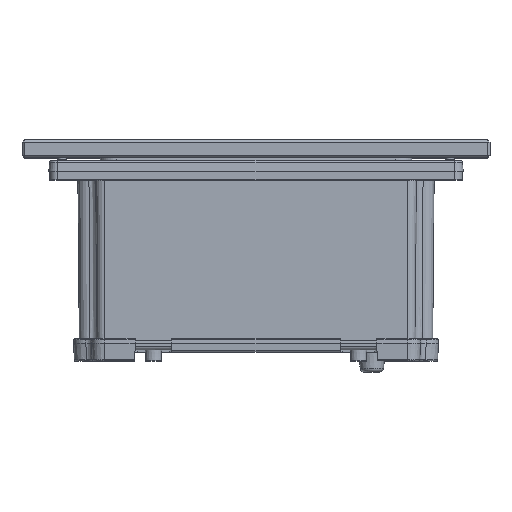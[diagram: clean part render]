
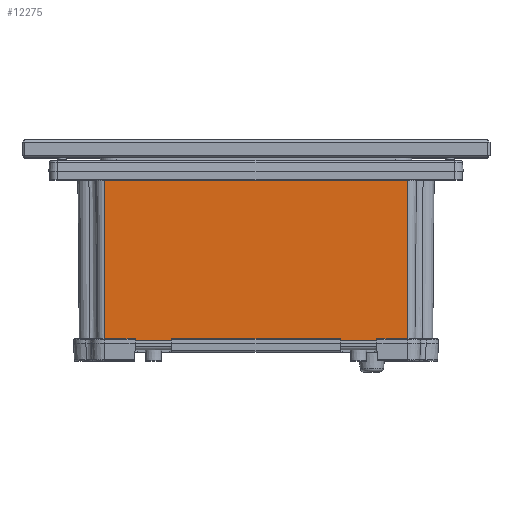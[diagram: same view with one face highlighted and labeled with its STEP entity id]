
A CAD part, top view. The second image highlights one B-rep face of the part: STEP entity #12275.
In plain terms, the highlighted planar face has unit normal (0, -0.009, 1).
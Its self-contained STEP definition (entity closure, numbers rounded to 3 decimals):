
#5525=DIRECTION('',(1.,0.,0.));
#5526=VECTOR('',#5525,68.);
#5527=CARTESIAN_POINT('',(-34.,-27.5,24.147));
#5528=LINE('',#5527,#5526);
#5868=DIRECTION('',(1.,0.,0.));
#5869=VECTOR('',#5868,68.);
#5870=CARTESIAN_POINT('',(-34.,10.203,24.476));
#5871=LINE('',#5870,#5869);
#5872=DIRECTION('',(0.,-1.,-0.009));
#5873=VECTOR('',#5872,37.704);
#5874=CARTESIAN_POINT('',(34.,10.203,24.476));
#5875=LINE('',#5874,#5873);
#5876=DIRECTION('',(0.,-1.,-0.009));
#5877=VECTOR('',#5876,37.704);
#5878=CARTESIAN_POINT('',(-34.,10.203,24.476));
#5879=LINE('',#5878,#5877);
#11062=CARTESIAN_POINT('',(-34.,-27.5,24.147));
#11064=VERTEX_POINT('',#11062);
#11067=CARTESIAN_POINT('',(34.,-27.5,24.147));
#11069=VERTEX_POINT('',#11067);
#11198=CARTESIAN_POINT('',(34.,10.203,24.476));
#11200=VERTEX_POINT('',#11198);
#11274=CARTESIAN_POINT('',(-34.,10.203,24.476));
#11275=VERTEX_POINT('',#11274);
#12262=CARTESIAN_POINT('',(-37.12,13.,24.5));
#12263=DIRECTION('',(0.,-0.009,1.));
#12264=DIRECTION('',(1.,0.,0.));
#12265=AXIS2_PLACEMENT_3D('',#12262,#12263,#12264);
#12266=PLANE('',#12265);
#12268=ORIENTED_EDGE('',*,*,#12267,.T.);
#12269=ORIENTED_EDGE('',*,*,#12257,.T.);
#12270=ORIENTED_EDGE('',*,*,#11902,.F.);
#12272=ORIENTED_EDGE('',*,*,#12271,.F.);
#12273=EDGE_LOOP('',(#12268,#12269,#12270,#12272));
#12274=FACE_OUTER_BOUND('',#12273,.F.);
#12275=ADVANCED_FACE('',(#12274),#12266,.T.);
#11902=EDGE_CURVE('',#11064,#11069,#5528,.T.);
#12257=EDGE_CURVE('',#11200,#11069,#5875,.T.);
#12267=EDGE_CURVE('',#11275,#11200,#5871,.T.);
#12271=EDGE_CURVE('',#11275,#11064,#5879,.T.);
